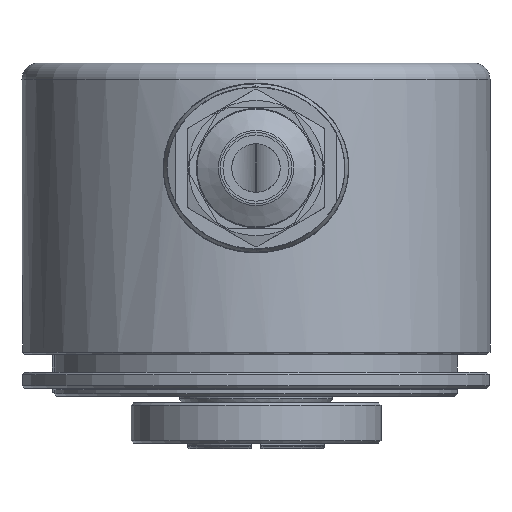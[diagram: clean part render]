
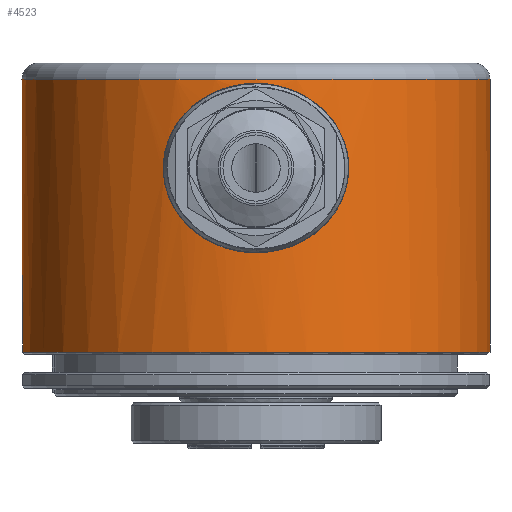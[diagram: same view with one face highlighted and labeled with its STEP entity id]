
A CAD part, front view. The second image highlights one B-rep face of the part: STEP entity #4523.
In plain terms, the highlighted cylindrical face has radius 29 mm (diameter 58 mm), a full revolution.
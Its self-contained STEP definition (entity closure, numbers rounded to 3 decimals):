
#36=LINE('',#6058,#262);
#37=LINE('',#6063,#263);
#262=VECTOR('',#5112,1000.);
#263=VECTOR('',#5115,1000.);
#488=B_SPLINE_CURVE_WITH_KNOTS('',3,(#6038,#6039,#6040,#6041,#6042,#6043,
#6044,#6045,#6046,#6047,#6048,#6049,#6050,#6051,#6052,#6053,#6054,#6055,
#6056),.UNSPECIFIED.,.T.,.F.,(1,1,1,1,1,1,1,1,1,1,1,1,1,1,1,1,1,1,1,1,1,
1,1),(-0.013,-0.009,-0.004,0.,
0.004,0.009,0.013,0.017,
0.022,0.026,0.03,0.035,
0.039,0.043,0.048,0.052,
0.056,0.061,0.065,0.069,
0.074,0.078,0.082),.UNSPECIFIED.);
#563=CYLINDRICAL_SURFACE('',#4737,29.);
#658=ORIENTED_EDGE('',*,*,#1562,.T.);
#659=ORIENTED_EDGE('',*,*,#1561,.F.);
#660=ORIENTED_EDGE('',*,*,#1563,.F.);
#661=ORIENTED_EDGE('',*,*,#1564,.T.);
#662=ORIENTED_EDGE('',*,*,#1565,.F.);
#663=ORIENTED_EDGE('',*,*,#1566,.T.);
#1561=EDGE_CURVE('',#2016,#2016,#2332,.T.);
#1562=EDGE_CURVE('',#2017,#2017,#488,.T.);
#1563=EDGE_CURVE('',#2018,#2019,#36,.T.);
#1564=EDGE_CURVE('',#2018,#2020,#2333,.T.);
#1565=EDGE_CURVE('',#2021,#2020,#37,.F.);
#1566=EDGE_CURVE('',#2021,#2019,#2334,.T.);
#2016=VERTEX_POINT('',#6036);
#2017=VERTEX_POINT('',#6057);
#2018=VERTEX_POINT('',#6059);
#2019=VERTEX_POINT('',#6060);
#2020=VERTEX_POINT('',#6062);
#2021=VERTEX_POINT('',#6064);
#2332=CIRCLE('',#4736,29.);
#2333=CIRCLE('',#4738,29.);
#2334=CIRCLE('',#4739,29.);
#2493=EDGE_LOOP('',(#658));
#2494=EDGE_LOOP('',(#659));
#2495=EDGE_LOOP('',(#660,#661,#662,#663));
#2756=FACE_BOUND('',#2493,.T.);
#2757=FACE_BOUND('',#2494,.T.);
#2758=FACE_BOUND('',#2495,.T.);
#4523=ADVANCED_FACE('',(#2756,#2757,#2758),#563,.T.);
#4736=AXIS2_PLACEMENT_3D('',#6035,#5108,#5109);
#4737=AXIS2_PLACEMENT_3D('',#6037,#5110,#5111);
#4738=AXIS2_PLACEMENT_3D('',#6061,#5113,#5114);
#4739=AXIS2_PLACEMENT_3D('',#6065,#5116,#5117);
#5108=DIRECTION('',(0.,0.,1.));
#5109=DIRECTION('',(1.,0.,0.));
#5110=DIRECTION('',(0.,0.,1.));
#5111=DIRECTION('',(1.,0.,0.));
#5112=DIRECTION('',(0.,0.,1.));
#5113=DIRECTION('',(0.,0.,1.));
#5114=DIRECTION('',(1.,0.,0.));
#5115=DIRECTION('',(0.,0.,1.));
#5116=DIRECTION('',(0.,0.,1.));
#5117=DIRECTION('',(1.,0.,0.));
#6035=CARTESIAN_POINT('',(0.,0.,30.));
#6036=CARTESIAN_POINT('',(29.,0.,30.));
#6037=CARTESIAN_POINT('',(0.,0.,26.1));
#6038=CARTESIAN_POINT('',(10.811,-26.934,23.365));
#6039=CARTESIAN_POINT('',(11.842,-26.468,18.994));
#6040=CARTESIAN_POINT('',(10.819,-26.93,14.659));
#6041=CARTESIAN_POINT('',(8.144,-27.903,11.219));
#6042=CARTESIAN_POINT('',(4.394,-28.767,9.021));
#6043=CARTESIAN_POINT('',(0.009,-29.115,8.242));
#6044=CARTESIAN_POINT('',(-4.371,-28.771,9.011));
#6045=CARTESIAN_POINT('',(-8.142,-27.904,11.215));
#6046=CARTESIAN_POINT('',(-10.824,-26.928,14.661));
#6047=CARTESIAN_POINT('',(-11.841,-26.468,19.028));
#6048=CARTESIAN_POINT('',(-10.81,-26.934,23.357));
#6049=CARTESIAN_POINT('',(-8.136,-27.905,26.786));
#6050=CARTESIAN_POINT('',(-4.397,-28.766,28.977));
#6051=CARTESIAN_POINT('',(-0.017,-29.115,29.757));
#6052=CARTESIAN_POINT('',(4.357,-28.773,28.993));
#6053=CARTESIAN_POINT('',(8.127,-27.909,26.796));
#6054=CARTESIAN_POINT('',(10.811,-26.934,23.365));
#6055=CARTESIAN_POINT('',(11.842,-26.468,18.994));
#6056=CARTESIAN_POINT('',(10.819,-26.93,14.659));
#6057=CARTESIAN_POINT('',(11.5,-26.622,19.));
#6058=CARTESIAN_POINT('',(-28.14,7.009,13.8));
#6059=CARTESIAN_POINT('',(-28.14,7.009,-3.8));
#6060=CARTESIAN_POINT('',(-28.14,7.009,-1.3));
#6061=CARTESIAN_POINT('',(0.,0.,-3.8));
#6062=CARTESIAN_POINT('',(-20.14,20.866,-3.8));
#6063=CARTESIAN_POINT('',(-20.14,20.866,13.8));
#6064=CARTESIAN_POINT('',(-20.14,20.866,-1.3));
#6065=CARTESIAN_POINT('',(0.,0.,-1.3));
